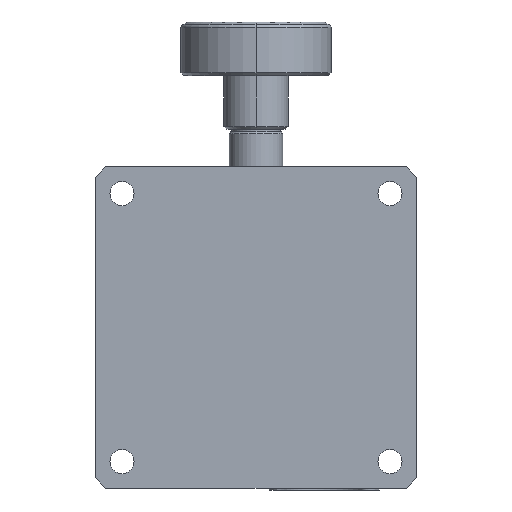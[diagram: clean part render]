
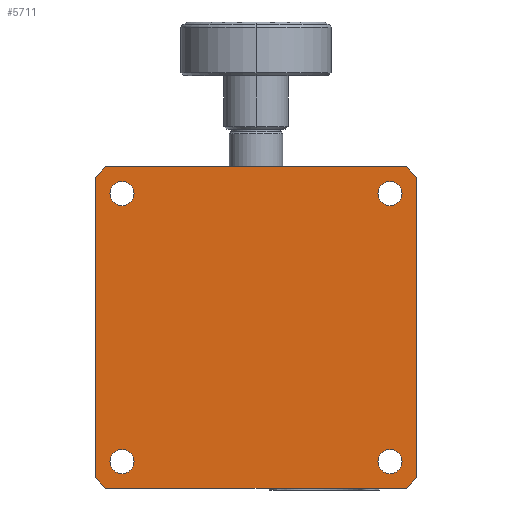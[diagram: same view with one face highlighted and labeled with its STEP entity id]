
A CAD part, front view. The second image highlights one B-rep face of the part: STEP entity #5711.
In plain terms, the highlighted planar face has unit normal (0, -1, 0).
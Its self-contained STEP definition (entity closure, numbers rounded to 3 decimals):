
#777 = EDGE_CURVE ( 'NONE', #37838, #50129, #5784, .T. ) ;
#1090 = FACE_BOUND ( 'NONE', #15050, .T. ) ;
#1354 = ORIENTED_EDGE ( 'NONE', *, *, #35304, .T. ) ;
#1669 = VERTEX_POINT ( 'NONE', #36727 ) ;
#1683 = CARTESIAN_POINT ( 'NONE',  ( -22.75, 0., 25. ) ) ;
#1700 = EDGE_LOOP ( 'NONE', ( #51001, #28726 ) ) ;
#1932 = VECTOR ( 'NONE', #34313, 1000. ) ;
#2852 = CIRCLE ( 'NONE', #12583, 2.25 ) ;
#3143 = CARTESIAN_POINT ( 'NONE',  ( 22.75, 0., 25. ) ) ;
#3309 = CARTESIAN_POINT ( 'NONE',  ( 30., 0., -28. ) ) ;
#3356 = DIRECTION ( 'NONE',  ( 1., 0., 0. ) ) ;
#3429 = DIRECTION ( 'NONE',  ( 0., 1., 0. ) ) ;
#3539 = CARTESIAN_POINT ( 'NONE',  ( -25., 0., -25. ) ) ;
#3631 = DIRECTION ( 'NONE',  ( 0., 1., 0. ) ) ;
#3738 = DIRECTION ( 'NONE',  ( -1., 0., 0. ) ) ;
#3990 = ORIENTED_EDGE ( 'NONE', *, *, #44726, .T. ) ;
#4020 = DIRECTION ( 'NONE',  ( 0., 1., 0. ) ) ;
#4589 = VERTEX_POINT ( 'NONE', #3309 ) ;
#5265 = ORIENTED_EDGE ( 'NONE', *, *, #45148, .T. ) ;
#5548 = DIRECTION ( 'NONE',  ( 0., 0., 1. ) ) ;
#5711 = ADVANCED_FACE ( 'NONE', ( #21161, #22399, #44122, #1090, #10474 ), #26065, .T. ) ;
#5784 = CIRCLE ( 'NONE', #13288, 2.25 ) ;
#6287 = LINE ( 'NONE', #52331, #26448 ) ;
#6335 = VECTOR ( 'NONE', #27907, 1000. ) ;
#6670 = DIRECTION ( 'NONE',  ( 0., 1., 0. ) ) ;
#6895 = LINE ( 'NONE', #38839, #47561 ) ;
#7583 = AXIS2_PLACEMENT_3D ( 'NONE', #26124, #26057, #26013 ) ;
#8223 = VECTOR ( 'NONE', #5548, 1000. ) ;
#8777 = VERTEX_POINT ( 'NONE', #21668 ) ;
#10474 = FACE_OUTER_BOUND ( 'NONE', #14631, .T. ) ;
#10740 = AXIS2_PLACEMENT_3D ( 'NONE', #28139, #4020, #32281 ) ;
#10811 = VERTEX_POINT ( 'NONE', #24447 ) ;
#10992 = ORIENTED_EDGE ( 'NONE', *, *, #45449, .F. ) ;
#11121 = AXIS2_PLACEMENT_3D ( 'NONE', #35977, #11749, #40073 ) ;
#11198 = VERTEX_POINT ( 'NONE', #49805 ) ;
#11749 = DIRECTION ( 'NONE',  ( 0., 1., 0. ) ) ;
#11952 = LINE ( 'NONE', #13753, #41760 ) ;
#12048 = CIRCLE ( 'NONE', #11121, 2.25 ) ;
#12487 = CARTESIAN_POINT ( 'NONE',  ( -22.75, 0., -25. ) ) ;
#12583 = AXIS2_PLACEMENT_3D ( 'NONE', #30908, #6670, #34953 ) ;
#12721 = CARTESIAN_POINT ( 'NONE',  ( 30., 0., 28. ) ) ;
#12829 = EDGE_CURVE ( 'NONE', #8777, #30105, #44395, .T. ) ;
#13261 = VERTEX_POINT ( 'NONE', #1683 ) ;
#13288 = AXIS2_PLACEMENT_3D ( 'NONE', #31750, #31460, #31280 ) ;
#13459 = CARTESIAN_POINT ( 'NONE',  ( -30., 0., 30. ) ) ;
#13753 = CARTESIAN_POINT ( 'NONE',  ( 29., 0., -29. ) ) ;
#14502 = LINE ( 'NONE', #48756, #22613 ) ;
#14631 = EDGE_LOOP ( 'NONE', ( #16090, #51152, #10992, #32530, #45961, #39397, #34072, #43230 ) ) ;
#14944 = CIRCLE ( 'NONE', #17141, 2.25 ) ;
#15050 = EDGE_LOOP ( 'NONE', ( #5265, #1354 ) ) ;
#15161 = VERTEX_POINT ( 'NONE', #19392 ) ;
#16090 = ORIENTED_EDGE ( 'NONE', *, *, #45847, .F. ) ;
#16507 = DIRECTION ( 'NONE',  ( -0.707, 0., 0.707 ) ) ;
#17141 = AXIS2_PLACEMENT_3D ( 'NONE', #42335, #18011, #46510 ) ;
#18011 = DIRECTION ( 'NONE',  ( 0., 1., 0. ) ) ;
#18215 = VECTOR ( 'NONE', #16507, 1000. ) ;
#18322 = VERTEX_POINT ( 'NONE', #49871 ) ;
#18760 = EDGE_LOOP ( 'NONE', ( #3990, #23417 ) ) ;
#19392 = CARTESIAN_POINT ( 'NONE',  ( 22.75, 0., -25. ) ) ;
#20330 = CARTESIAN_POINT ( 'NONE',  ( -1., 0., 59. ) ) ;
#21161 = FACE_BOUND ( 'NONE', #18760, .T. ) ;
#21668 = CARTESIAN_POINT ( 'NONE',  ( -27.25, 0., -25. ) ) ;
#22399 = FACE_BOUND ( 'NONE', #1700, .T. ) ;
#22591 = DIRECTION ( 'NONE',  ( 0., 1., 0. ) ) ;
#22613 = VECTOR ( 'NONE', #28395, 1000. ) ;
#23417 = ORIENTED_EDGE ( 'NONE', *, *, #777, .T. ) ;
#24447 = CARTESIAN_POINT ( 'NONE',  ( -28., 0., -30. ) ) ;
#26013 = DIRECTION ( 'NONE',  ( -1., 0., 0. ) ) ;
#26057 = DIRECTION ( 'NONE',  ( 0., -1., 0. ) ) ;
#26065 = PLANE ( 'NONE',  #7583 ) ;
#26124 = CARTESIAN_POINT ( 'NONE',  ( -30., 0., 30. ) ) ;
#26448 = VECTOR ( 'NONE', #3738, 1000. ) ;
#26513 = AXIS2_PLACEMENT_3D ( 'NONE', #47093, #22591, #51167 ) ;
#27260 = EDGE_CURVE ( 'NONE', #18322, #13261, #2852, .T. ) ;
#27731 = CARTESIAN_POINT ( 'NONE',  ( 25., 0., -25. ) ) ;
#27907 = DIRECTION ( 'NONE',  ( -0.707, 0., -0.707 ) ) ;
#28139 = CARTESIAN_POINT ( 'NONE',  ( -25., 0., 25. ) ) ;
#28395 = DIRECTION ( 'NONE',  ( 1., 0., 0. ) ) ;
#28726 = ORIENTED_EDGE ( 'NONE', *, *, #27260, .T. ) ;
#29782 = CIRCLE ( 'NONE', #10740, 2.25 ) ;
#30027 = DIRECTION ( 'NONE',  ( 0.707, 0., 0.707 ) ) ;
#30105 = VERTEX_POINT ( 'NONE', #12487 ) ;
#30309 = LINE ( 'NONE', #20330, #18215 ) ;
#30908 = CARTESIAN_POINT ( 'NONE',  ( -25., 0., 25. ) ) ;
#31280 = DIRECTION ( 'NONE',  ( 1., 0., 0. ) ) ;
#31460 = DIRECTION ( 'NONE',  ( 0., 1., 0. ) ) ;
#31750 = CARTESIAN_POINT ( 'NONE',  ( 25., 0., 25. ) ) ;
#31887 = DIRECTION ( 'NONE',  ( 1., 0., 0. ) ) ;
#32069 = CARTESIAN_POINT ( 'NONE',  ( -29., 0., 29. ) ) ;
#32281 = DIRECTION ( 'NONE',  ( 1., 0., 0. ) ) ;
#32333 = CARTESIAN_POINT ( 'NONE',  ( -30., 0., -28. ) ) ;
#32387 = ORIENTED_EDGE ( 'NONE', *, *, #12829, .T. ) ;
#32530 = ORIENTED_EDGE ( 'NONE', *, *, #45603, .T. ) ;
#33217 = CARTESIAN_POINT ( 'NONE',  ( -30., 0., 28. ) ) ;
#33746 = ORIENTED_EDGE ( 'NONE', *, *, #45047, .T. ) ;
#34072 = ORIENTED_EDGE ( 'NONE', *, *, #46010, .F. ) ;
#34144 = LINE ( 'NONE', #38381, #1932 ) ;
#34313 = DIRECTION ( 'NONE',  ( 0.707, 0., -0.707 ) ) ;
#34953 = DIRECTION ( 'NONE',  ( 1., 0., 0. ) ) ;
#35304 = EDGE_CURVE ( 'NONE', #15161, #42459, #14944, .T. ) ;
#35977 = CARTESIAN_POINT ( 'NONE',  ( 25., 0., 25. ) ) ;
#36727 = CARTESIAN_POINT ( 'NONE',  ( -28., 0., 30. ) ) ;
#37838 = VERTEX_POINT ( 'NONE', #3143 ) ;
#38381 = CARTESIAN_POINT ( 'NONE',  ( -59., 0., 1. ) ) ;
#38597 = LINE ( 'NONE', #32069, #6335 ) ;
#38839 = CARTESIAN_POINT ( 'NONE',  ( 30., 0., 30. ) ) ;
#38846 = CARTESIAN_POINT ( 'NONE',  ( 27.25, 0., 25. ) ) ;
#39397 = ORIENTED_EDGE ( 'NONE', *, *, #45919, .T. ) ;
#40073 = DIRECTION ( 'NONE',  ( 1., 0., 0. ) ) ;
#41760 = VECTOR ( 'NONE', #30027, 1000. ) ;
#41809 = LINE ( 'NONE', #13459, #8223 ) ;
#41826 = VERTEX_POINT ( 'NONE', #12721 ) ;
#42187 = VERTEX_POINT ( 'NONE', #32333 ) ;
#42332 = VERTEX_POINT ( 'NONE', #33217 ) ;
#42335 = CARTESIAN_POINT ( 'NONE',  ( 25., 0., -25. ) ) ;
#42459 = VERTEX_POINT ( 'NONE', #43154 ) ;
#42993 = DIRECTION ( 'NONE',  ( 0., 0., -1. ) ) ;
#43154 = CARTESIAN_POINT ( 'NONE',  ( 27.25, 0., -25. ) ) ;
#43230 = ORIENTED_EDGE ( 'NONE', *, *, #46246, .T. ) ;
#44122 = FACE_BOUND ( 'NONE', #47451, .T. ) ;
#44395 = CIRCLE ( 'NONE', #50262, 2.25 ) ;
#44633 = CARTESIAN_POINT ( 'NONE',  ( 28., 0., 30. ) ) ;
#44726 = EDGE_CURVE ( 'NONE', #50129, #37838, #12048, .T. ) ;
#44804 = EDGE_CURVE ( 'NONE', #13261, #18322, #29782, .T. ) ;
#45047 = EDGE_CURVE ( 'NONE', #30105, #8777, #45093, .T. ) ;
#45093 = CIRCLE ( 'NONE', #26513, 2.25 ) ;
#45148 = EDGE_CURVE ( 'NONE', #42459, #15161, #50797, .T. ) ;
#45213 = EDGE_CURVE ( 'NONE', #1669, #42332, #38597, .T. ) ;
#45449 = EDGE_CURVE ( 'NONE', #42187, #42332, #41809, .T. ) ;
#45603 = EDGE_CURVE ( 'NONE', #42187, #10811, #34144, .T. ) ;
#45766 = EDGE_CURVE ( 'NONE', #11198, #10811, #6287, .T. ) ;
#45847 = EDGE_CURVE ( 'NONE', #1669, #50223, #14502, .T. ) ;
#45919 = EDGE_CURVE ( 'NONE', #11198, #4589, #11952, .T. ) ;
#45961 = ORIENTED_EDGE ( 'NONE', *, *, #45766, .F. ) ;
#46010 = EDGE_CURVE ( 'NONE', #41826, #4589, #6895, .T. ) ;
#46246 = EDGE_CURVE ( 'NONE', #41826, #50223, #30309, .T. ) ;
#46510 = DIRECTION ( 'NONE',  ( 1., 0., 0. ) ) ;
#47093 = CARTESIAN_POINT ( 'NONE',  ( -25., 0., -25. ) ) ;
#47451 = EDGE_LOOP ( 'NONE', ( #33746, #32387 ) ) ;
#47561 = VECTOR ( 'NONE', #42993, 1000. ) ;
#48756 = CARTESIAN_POINT ( 'NONE',  ( 30., 0., 30. ) ) ;
#49805 = CARTESIAN_POINT ( 'NONE',  ( 28., 0., -30. ) ) ;
#49871 = CARTESIAN_POINT ( 'NONE',  ( -27.25, 0., 25. ) ) ;
#50129 = VERTEX_POINT ( 'NONE', #38846 ) ;
#50223 = VERTEX_POINT ( 'NONE', #44633 ) ;
#50262 = AXIS2_PLACEMENT_3D ( 'NONE', #3539, #3429, #3356 ) ;
#50797 = CIRCLE ( 'NONE', #51582, 2.25 ) ;
#51001 = ORIENTED_EDGE ( 'NONE', *, *, #44804, .T. ) ;
#51152 = ORIENTED_EDGE ( 'NONE', *, *, #45213, .T. ) ;
#51167 = DIRECTION ( 'NONE',  ( 1., 0., 0. ) ) ;
#51582 = AXIS2_PLACEMENT_3D ( 'NONE', #27731, #3631, #31887 ) ;
#52331 = CARTESIAN_POINT ( 'NONE',  ( 30., 0., -30. ) ) ;
